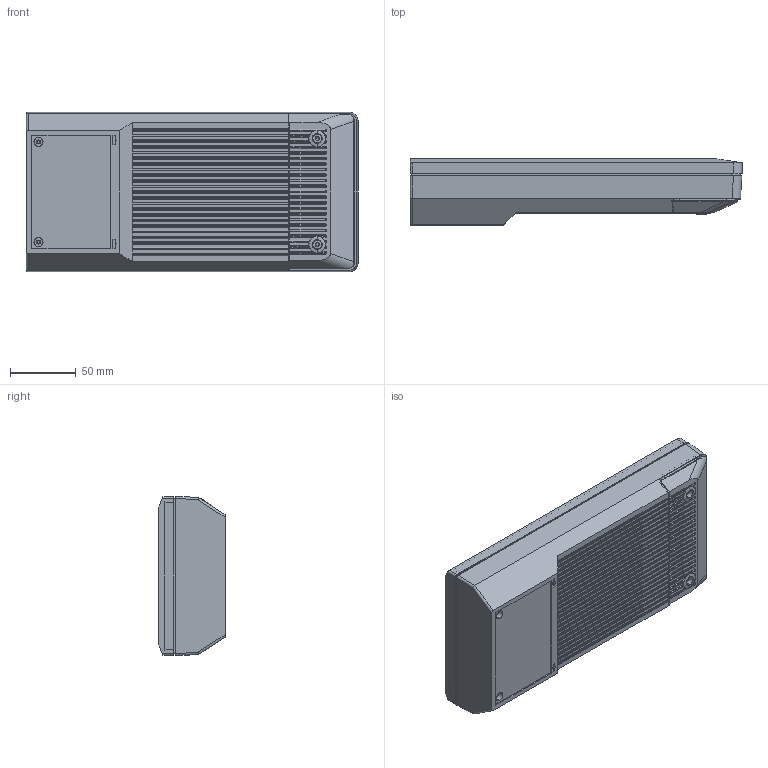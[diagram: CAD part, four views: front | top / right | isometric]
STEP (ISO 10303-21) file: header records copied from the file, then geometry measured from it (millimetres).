
FILE_DESCRIPTION (( 'STEP AP214' ), '1' );
FILE_NAME ('MBL Assembly.STEP', '2025-01-16T16:25:04', ( '' ), ( '' ), 'SwSTEP 2.0', 'SolidWorks 2016', '' );
FILE_SCHEMA (( 'AUTOMOTIVE_DESIGN' ));
Length unit declared in the file: inch
Products named in the file (7): MBL-bot; MBL-DOOR; MBl-top ver 2; MBL Assembly
Assembly tree (3 placements, depth 2):
  MBL-DOOR
  MBL-bot
  MBL Assembly
    MBL-bot
    MBl-top ver 2
    MBL-DOOR
  MBl-top ver 2
Bounding box: 252.15 x 50.14 x 121.08 mm (x, y, z)
Volume: 299883.7 mm3; surface area: 231324.8 mm2
Topology: 3 solids, 3 shells, 2459 faces, 6545 edges, 4249 vertices
Faces by surface type: plane 1372, bspline 531, cylinder 442, torus 58, cone 50, sphere 6
Entity records: 100069 total; most frequent: CARTESIAN_POINT 41604, ORIENTED_EDGE 13078, DIRECTION 10080, EDGE_CURVE 6539, VECTOR 4382, LINE 4382, VERTEX_POINT 4249, AXIS2_PLACEMENT_3D 2849
